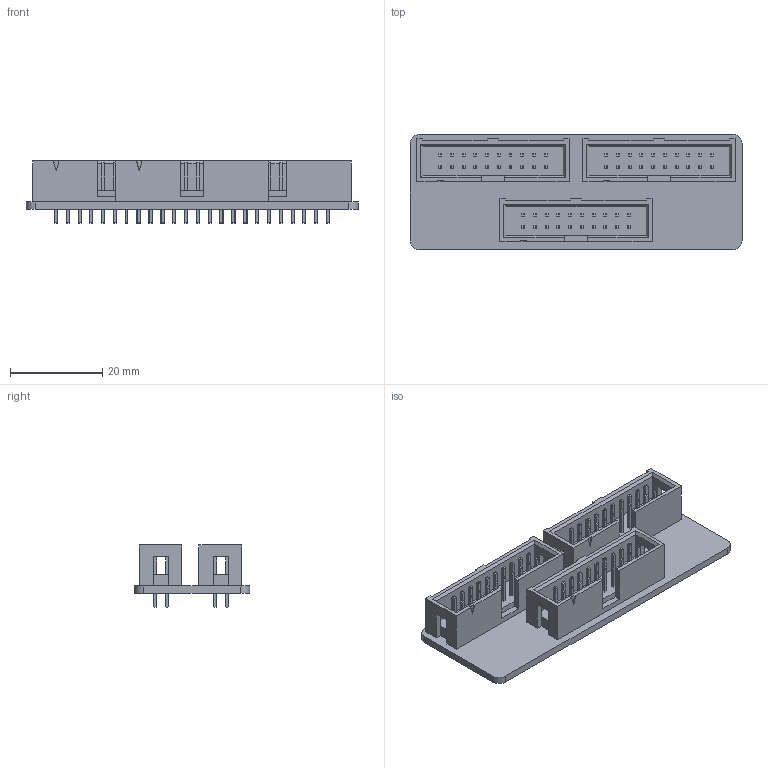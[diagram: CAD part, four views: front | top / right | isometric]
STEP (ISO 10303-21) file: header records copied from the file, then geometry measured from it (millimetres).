
FILE_DESCRIPTION (( 'STEP AP214' ), '1' );
FILE_NAME ('XJA0033.step', '2026-09-01T11:02:47', ( '' ), ( '' ), 'SwSTEP 2.0', 'SolidWorks 2025', '' );
FILE_SCHEMA (( 'AUTOMOTIVE_DESIGN' ));
Length unit declared in the file: millimetre
Products named in the file (10): Board-Part-1; _T-1S6-10-02-D; _TST-110-02-D_header; _TST-First_Position_Indicator; Board; P2; XJA0033; P1; TST-110-02-G-D_RGB4408131; P3
Assembly tree (11 placements, depth 4):
  XJA0033
    P2
      TST-110-02-G-D_RGB4408131
        _T-1S6-10-02-D
        _TST-First_Position_Indicator
        _TST-110-02-D_header
    P3
      TST-110-02-G-D_RGB4408131
        _T-1S6-10-02-D
        _TST-First_Position_Indicator
        _TST-110-02-D_header
    P1
      TST-110-02-G-D_RGB4408131
        _T-1S6-10-02-D
        _TST-First_Position_Indicator
        _TST-110-02-D_header
    Board
      Board-Part-1
Bounding box: 72 x 25 x 13.46 mm (x, y, z)
Volume: 7115.5 mm3; surface area: 11816.7 mm2
Topology: 10 solids, 10 shells, 1312 faces, 3906 edges, 2590 vertices
Faces by surface type: plane 1184, cylinder 104, sphere 24
Entity records: 24514 total; most frequent: CARTESIAN_POINT 4311, ORIENTED_EDGE 4284, DIRECTION 3852, EDGE_CURVE 2142, LINE 1918, VECTOR 1918, VERTEX_POINT 1426, AXIS2_PLACEMENT_3D 967
